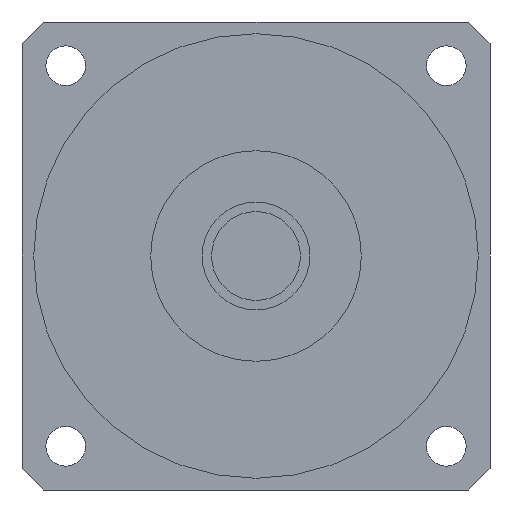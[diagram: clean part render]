
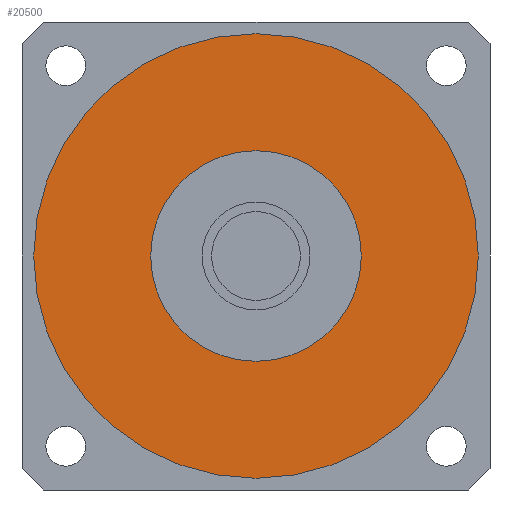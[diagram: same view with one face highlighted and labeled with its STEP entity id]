
A CAD part, left-side view. The second image highlights one B-rep face of the part: STEP entity #20500.
In plain terms, the highlighted planar face has unit normal (-1, 0, 0) as drawn and (0, 0, -1) by its records, which use the part's own axes.
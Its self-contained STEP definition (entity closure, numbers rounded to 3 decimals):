
#19920=CARTESIAN_POINT('',(47.5,0.,-38.5));
#19930=VERTEX_POINT('',#19920);
#20020=CARTESIAN_POINT('',(-47.5,0.,-38.5));
#20030=VERTEX_POINT('',#20020);
#20060=CARTESIAN_POINT('',(0.,0.,
-38.5));
#20070=DIRECTION('',(0.,0.,1.));
#20080=DIRECTION('',(0.,1.,0.));
#20090=AXIS2_PLACEMENT_3D('',#20060,#20070,#20080);
#20100=CIRCLE('',#20090,47.5);
#20110=CARTESIAN_POINT('',(0.,47.5,-38.5));
#20120=VERTEX_POINT('',#20110);
#20130=EDGE_CURVE('',#20120,#20030,#20100,.T.);
#20150=EDGE_CURVE('',#19930,#20120,#20100,.T.);
#20200=CARTESIAN_POINT('',(0.,0.,
-38.5));
#20210=DIRECTION('',(0.,0.,1.));
#20220=DIRECTION('',(-1.,0.,0.));
#20230=AXIS2_PLACEMENT_3D('',#20200,#20210,#20220);
#20240=PLANE('',#20230);
#20250=ORIENTED_EDGE('',*,*,#20130,.F.);
#20260=EDGE_CURVE('',#20030,#19930,#20100,.T.);
#20270=ORIENTED_EDGE('',*,*,#20260,.F.);
#20280=ORIENTED_EDGE('',*,*,#20150,.F.);
#20290=EDGE_LOOP('',(#20280,#20270,#20250));
#20300=FACE_OUTER_BOUND('',#20290,.T.);
#20310=CARTESIAN_POINT('',(0.,0.,
-38.5));
#20320=DIRECTION('',(0.,0.,1.));
#20330=DIRECTION('',(0.,1.,0.));
#20340=AXIS2_PLACEMENT_3D('',#20310,#20320,#20330);
#20350=CIRCLE('',#20340,22.5);
#20360=CARTESIAN_POINT('',(-22.5,0.,-38.5));
#20370=VERTEX_POINT('',#20360);
#20380=CARTESIAN_POINT('',(22.5,0.,-38.5));
#20390=VERTEX_POINT('',#20380);
#20400=EDGE_CURVE('',#20370,#20390,#20350,.T.);
#20410=ORIENTED_EDGE('',*,*,#20400,.T.);
#20420=CARTESIAN_POINT('',(0.,22.5,-38.5));
#20430=VERTEX_POINT('',#20420);
#20440=EDGE_CURVE('',#20430,#20370,#20350,.T.);
#20450=ORIENTED_EDGE('',*,*,#20440,.T.);
#20460=EDGE_CURVE('',#20390,#20430,#20350,.T.);
#20470=ORIENTED_EDGE('',*,*,#20460,.T.);
#20480=EDGE_LOOP('',(#20470,#20450,#20410));
#20490=FACE_BOUND('',#20480,.T.);
#20500=ADVANCED_FACE('',(#20300,#20490),#20240,.F.);
